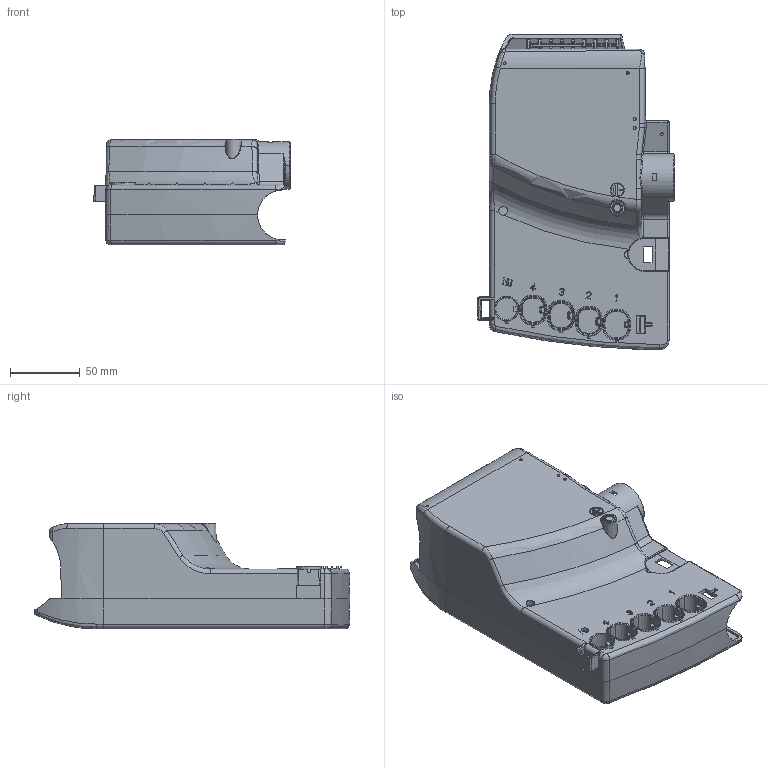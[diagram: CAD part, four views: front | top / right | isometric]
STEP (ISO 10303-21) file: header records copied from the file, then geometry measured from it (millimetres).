
FILE_DESCRIPTION((''),'2;1');
FILE_NAME('CB06','2006-02-02T',('KH'),(''),'PRO/ENGINEER BY PARAMETRIC TECHNOLOGY CORPORATION, 2005110','PRO/ENGINEER BY PARAMETRIC TECHNOLOGY CORPORATION, 2005110','');
FILE_SCHEMA(('CONFIG_CONTROL_DESIGN'));
Products named in the file (1): CB06
Bounding box: 141.03 x 226.57 x 76 mm (x, y, z)
Volume: 1250636 mm3; surface area: 123800.6 mm2
Topology: 1 solids, 1 shells, 1889 faces, 4704 edges, 2852 vertices
Faces by surface type: plane 614, cylinder 542, bspline 319, torus 187, cone 131, sphere 95, revolution 1
Entity records: 93573 total; most frequent: CARTESIAN_POINT 37658, ORIENTED_EDGE 9406, DIRECTION 7680, PRESENTATION_STYLE_ASSIGNMENT 4704, STYLED_ITEM 4704, CURVE_STYLE 4703, EDGE_CURVE 4703, VERTEX_POINT 2852
